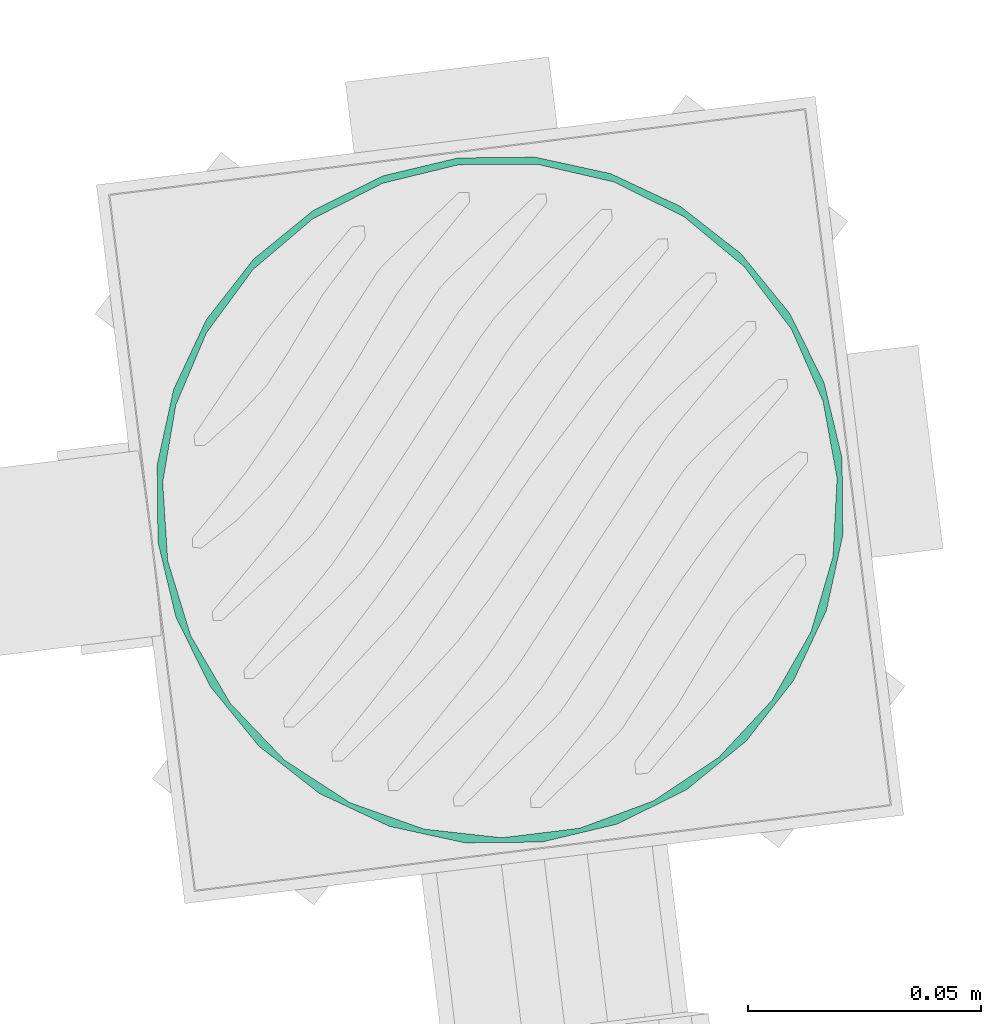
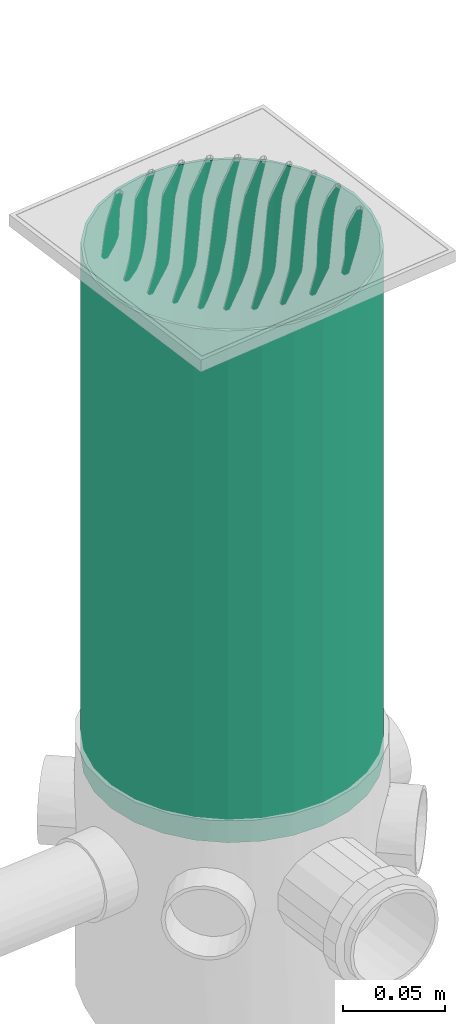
# One storey, part 55 of 97: 1 flow terminal.
"""IFC2X3 building model written with IfcOpenShell, lengths in centimetres."""

from ifc_helpers import new_model, entity, si_unit, converted_unit, derived_unit, direction, frame, frame_2d, origin, place, context, subcontext, project, spatial, hollow_circle, extrude, source, transform, mapped, material, type_object, type_shapes, element, save


model = new_model("IFC2X3")

# Units and contexts
model_context = context("Model", 3, precision=0.001, world=origin(), true_north=direction((6.12303176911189e-17, 1.0)))
body_context = subcontext(model_context, "Body", "Model", "MODEL_VIEW")
ifc_project = project(units=[si_unit("LENGTHUNIT", "METRE", prefix="CENTI"), si_unit("AREAUNIT", "SQUARE_METRE"), si_unit("VOLUMEUNIT", "CUBIC_METRE"), converted_unit("PLANEANGLEUNIT", "DEGREE", entity("IfcRatioMeasure", 0.0174532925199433), si_unit("PLANEANGLEUNIT", "RADIAN"), dimensions=[0, 0, 0, 0, 0, 0, 0]), si_unit("MASSUNIT", "GRAM", prefix="KILO"), derived_unit("MASSDENSITYUNIT", [(si_unit("MASSUNIT", "GRAM", prefix="KILO"), 1), (si_unit("LENGTHUNIT", "METRE"), -3)]), derived_unit("MOMENTOFINERTIAUNIT", [(si_unit("LENGTHUNIT", "METRE"), 4)]), si_unit("TIMEUNIT", "SECOND"), si_unit("FREQUENCYUNIT", "HERTZ"), si_unit("THERMODYNAMICTEMPERATUREUNIT", "DEGREE_CELSIUS"), derived_unit("THERMALTRANSMITTANCEUNIT", [(si_unit("MASSUNIT", "GRAM", prefix="KILO"), 1), (si_unit("THERMODYNAMICTEMPERATUREUNIT", "KELVIN"), -1), (si_unit("TIMEUNIT", "SECOND"), -3)]), derived_unit("VOLUMETRICFLOWRATEUNIT", [(si_unit("LENGTHUNIT", "METRE"), 3), (si_unit("TIMEUNIT", "SECOND"), -1)]), si_unit("ELECTRICCURRENTUNIT", "AMPERE"), si_unit("ELECTRICVOLTAGEUNIT", "VOLT"), si_unit("POWERUNIT", "WATT"), si_unit("FORCEUNIT", "NEWTON", prefix="KILO"), si_unit("ILLUMINANCEUNIT", "LUX"), si_unit("LUMINOUSFLUXUNIT", "LUMEN"), si_unit("LUMINOUSINTENSITYUNIT", "CANDELA"), derived_unit("USERDEFINED", [(si_unit("MASSUNIT", "GRAM", prefix="KILO"), -1), (si_unit("LENGTHUNIT", "METRE"), -2), (si_unit("TIMEUNIT", "SECOND"), 3), (si_unit("LUMINOUSFLUXUNIT", "LUMEN"), 1)]), derived_unit("LINEARVELOCITYUNIT", [(si_unit("LENGTHUNIT", "METRE"), 1), (si_unit("TIMEUNIT", "SECOND"), -1)]), si_unit("PRESSUREUNIT", "PASCAL"), derived_unit("USERDEFINED", [(si_unit("LENGTHUNIT", "METRE"), -2), (si_unit("MASSUNIT", "GRAM", prefix="KILO"), 1), (si_unit("TIMEUNIT", "SECOND"), -2)]), derived_unit("LINEARFORCEUNIT", [(si_unit("MASSUNIT", "GRAM", prefix="KILO"), 1), (si_unit("LENGTHUNIT", "METRE"), 1), (si_unit("TIMEUNIT", "SECOND"), -2), (si_unit("LENGTHUNIT", "METRE"), -1)]), derived_unit("PLANARFORCEUNIT", [(si_unit("MASSUNIT", "GRAM", prefix="KILO"), 1), (si_unit("LENGTHUNIT", "METRE"), 1), (si_unit("TIMEUNIT", "SECOND"), -2), (si_unit("LENGTHUNIT", "METRE"), -2)])], contexts=[model_context])

# Site, building, storey
site_placement = place(None, origin())
site = spatial("IfcSite", under=ifc_project, at=site_placement, Name="Default", CompositionType="ELEMENT")
building_placement = place(site_placement, origin())
building = spatial("IfcBuilding", under=site, at=building_placement, Name="HIDROSSANITÁRIO", CompositionType="ELEMENT")
storey_placement = place(building_placement, frame((0.0, 0.0, -260.0)))
storey = spatial("IfcBuildingStorey", under=building, at=storey_placement, Name="TÉRREO-HID", CompositionType="ELEMENT", Elevation=-260.0)

# Flow terminal
ifc_material = material(Name="Tigre - Caixas e Ralos_PVC Branco")
distribution_element_type = type_object("IfcDistributionElementType", Name="Prolongamento para Caixa Sifonada - Caixas e Ralos - Esgoto - MEP - Tigre:150 x 150 mm", material=ifc_material)
shared_shape = source(origin(), body_context, "Body", "SweptSolid", [
    extrude(hollow_circle(Radius=7.4, WallThickness=0.148000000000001, at=frame_2d((1.44328993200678e-17, 1.19550298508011e-14), x_axis=(1.0, 0.0))), frame((0.0, 0.0, -30.4999999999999)), (0.0, 0.0, 1.0), 30.4999999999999),
])
type_shapes(distribution_element_type, [shared_shape])
flow_terminal_placement = place(storey_placement, frame((-1593.17928057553, 3177.72296798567, 1.79999999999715), z_axis=(0.0, 0.0, 1.0), x_axis=(-0.122152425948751, 0.992511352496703, 0.0)))
element("IfcFlowTerminal", 1, at=flow_terminal_placement, inside=storey, type_object=distribution_element_type, material=ifc_material, Name="Prolongamento para Caixa Sifonada - Caixas e Ralos - Esgoto - MEP - Tigre:150 x 150 mm", ObjectType="Prolongamento para Caixa Sifonada - Caixas e Ralos - Esgoto - MEP - Tigre:150 x 150 mm", context=body_context, shape_type="MappedRepresentation", body=[
    mapped(shared_shape, transform((0.0, 0.0, 0.0), scale=1.0)),
])

save(model, "model.ifc")
